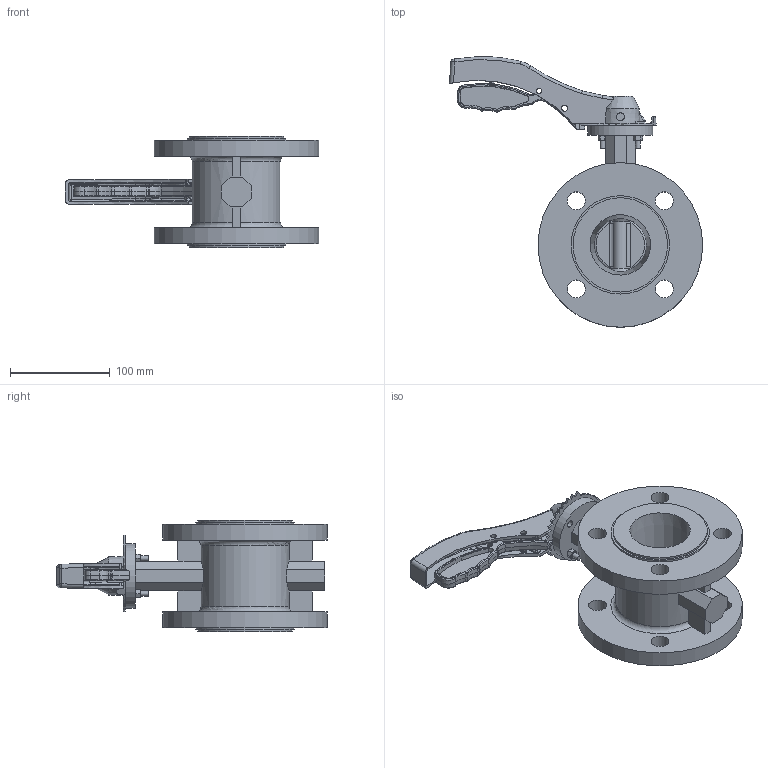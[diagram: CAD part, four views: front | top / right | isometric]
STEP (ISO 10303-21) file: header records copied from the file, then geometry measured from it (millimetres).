
FILE_DESCRIPTION (( 'STEP AP214' ), '1' );
FILE_NAME ('忒梟 邧楊擘評概 Fig.3226-204B-50-16.STEP', '2026-03-19T05:41:21', ( '' ), ( '' ), 'SwSTEP 2.0', 'SolidWorks 2024', '' );
FILE_SCHEMA (( 'AUTOMOTIVE_DESIGN' ));
Length unit declared in the file: millimetre
Products named in the file (1): 手柄 双法兰蝶阀 Fig.3226-204B-50-16
Bounding box: 253.86 x 271.29 x 112 mm (x, y, z)
Volume: 1099476.2 mm3; surface area: 199714.7 mm2
Topology: 1 solids, 6 shells, 1092 faces, 3073 edges, 2033 vertices
Faces by surface type: plane 752, cylinder 156, bspline 116, cone 60, torus 8
Full cylindrical faces by diameter (mm): 5 x5, 5.25 x3, 6.2 x2, 7 x4, 7.04 x2, 8 x1, 8.94 x2, 10 x1, 18 x8, 19.6 x1, 20 x1, 30 x1, 65 x1, 94.6 x2, 98.6 x2, 165 x2
Entity records: 56662 total; most frequent: CARTESIAN_POINT 18728, ORIENTED_EDGE 5962, DIRECTION 4420, EDGE_CURVE 2981, VERTEX_POINT 1997, VECTOR 1974, LINE 1974, EDGE_LOOP 1230
